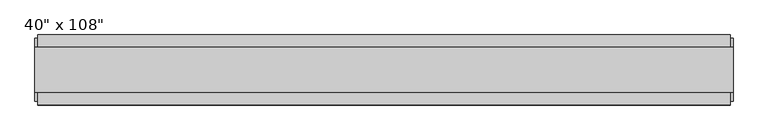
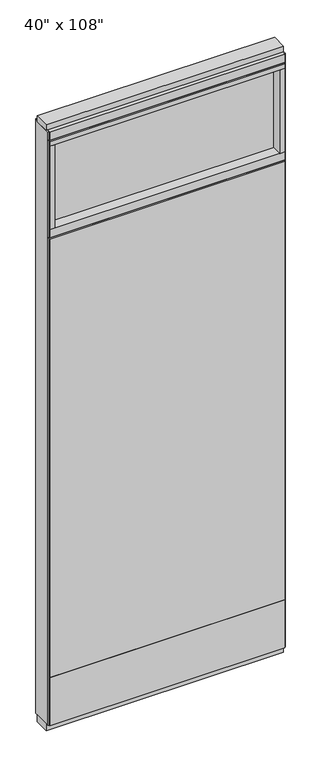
"""IFC4 building model written with IfcOpenShell, lengths in millimetres: furniture geometry."""

from ifc_helpers import new_model, si_unit, frame, origin, origin_with_axes, place, context, project, spatial, polyline, outline, extrude, source, transform, mapped, element, save


def furniture_5e6cb925(model_context):
    return source(origin(), model_context, "Body", "SweptSolid", [
        extrude(outline(polyline([(444.0264771, -46.2822784), (-564.0995229, -46.2822784), (-564.0995229, -33.5822784), (444.0264771, -33.5822784), (444.0264771, -46.2822784)])), frame((0.0, 0.0, 249.936), z_axis=(0.0, 0.0, 1.0), x_axis=(1.0, 0.0, 0.0)), (0.0, 0.0, 1.0), 1985.264),
        extrude(outline(polyline([(444.0264771, 55.3177216), (444.0264771, 42.6177216), (-564.0995229, 42.6177216), (-564.0995229, 55.3177216), (444.0264771, 55.3177216)])), frame((0.0, 0.0, 249.936), z_axis=(0.0, 0.0, 1.0), x_axis=(1.0, 0.0, 0.0)), (0.0, 0.0, 1.0), 1985.264),
        extrude(outline(polyline([(444.0264771, -46.2822784), (-564.0995229, -46.2822784), (-564.0995229, -33.5822784), (444.0264771, -33.5822784), (444.0264771, -46.2822784)])), frame((0.0, 0.0, 31.75), z_axis=(0.0, 0.0, 1.0), x_axis=(1.0, 0.0, 0.0)), (0.0, 0.0, 1.0), 218.186),
        extrude(outline(polyline([(444.0264771, 55.3177216), (444.0264771, 42.6177216), (-564.0995229, 42.6177216), (-564.0995229, 55.3177216), (444.0264771, 55.3177216)])), frame((0.0, 0.0, 31.75), z_axis=(0.0, 0.0, 1.0), x_axis=(1.0, 0.0, 0.0)), (0.0, 0.0, 1.0), 218.186),
        extrude(outline(polyline([(421.8014771, 9.5977216), (421.8014771, -0.5622784), (-541.8745229, -0.5622784), (-541.8745229, 9.5977216), (421.8014771, 9.5977216)])), frame((0.0, 0.0, 2276.475), z_axis=(0.0, 0.0, 1.0), x_axis=(1.0, 0.0, 0.0)), (0.0, 0.0, 1.0), 377.825),
        extrude(outline(polyline([(421.8014771, 55.3177216), (444.0264771, 55.3177216), (444.0264771, -46.2822784), (421.8014771, -46.2822784), (421.8014771, 55.3177216)])), frame((0.0, 0.0, 2276.475), z_axis=(0.0, 0.0, 1.0), x_axis=(1.0, 0.0, 0.0)), (0.0, 0.0, 1.0), 377.825),
        extrude(outline(polyline([(55.3177216, 2240.153), (50.3647216, 2240.153), (50.3647216, 2235.2), (-41.3292784, 2235.2), (-41.3292784, 2240.153), (-46.2822784, 2240.153), (-46.2822784, 2276.475), (55.3177216, 2276.475), (55.3177216, 2240.153)])), frame((-564.0995229, 0.0, 0.0), z_axis=(1.0, 0.0, 0.0), x_axis=(0.0, 1.0, 0.0)), (0.0, 0.0, 1.0), 1008.126),
        extrude(outline(polyline([(-541.8745229, 55.3177216), (-541.8745229, -46.2822784), (-564.0995229, -46.2822784), (-564.0995229, 55.3177216), (-541.8745229, 55.3177216)])), frame((0.0, 0.0, 2276.475), z_axis=(0.0, 0.0, 1.0), x_axis=(1.0, 0.0, 0.0)), (0.0, 0.0, 1.0), 377.825),
        extrude(outline(polyline([(447.9634771, -27.9942784), (-568.0365229, -27.9942784), (-568.0365229, 37.0297216), (447.9634771, 37.0297216), (447.9634771, -27.9942784)])), origin_with_axes(), (0.0, 0.0, 1.0), 31.75),
        extrude(outline(polyline([(-568.0365229, 37.0297216), (447.9634771, 37.0297216), (447.9634771, -27.9942784), (-568.0365229, -27.9942784), (-568.0365229, 37.0297216)])), frame((0.0, 0.0, 2717.8), z_axis=(0.0, 0.0, 1.0), x_axis=(1.0, 0.0, 0.0)), (0.0, 0.0, 1.0), 25.4),
        extrude(outline(polyline([(55.3177216, 2681.478), (50.3647216, 2681.478), (50.3647216, 2676.525), (-41.3292784, 2676.525), (-41.3292784, 2681.478), (-46.2822784, 2681.478), (-46.2822784, 2717.8), (55.3177216, 2717.8), (55.3177216, 2681.478)])), frame((-564.0995229, 0.0, 0.0), z_axis=(1.0, 0.0, 0.0), x_axis=(0.0, 1.0, 0.0)), (0.0, 0.0, 1.0), 1008.126),
        extrude(outline(polyline([(444.0264771, -46.2822784), (-564.0995229, -46.2822784), (-564.0995229, 55.3177216), (444.0264771, 55.3177216), (444.0264771, -46.2822784)])), frame((0.0, 0.0, 2654.3), z_axis=(0.0, 0.0, 1.0), x_axis=(1.0, 0.0, 0.0)), (0.0, 0.0, 1.0), 22.225),
        extrude(outline(polyline([(447.9634771, 50.3647216), (447.9634771, -41.3292784), (444.0264771, -41.3292784), (444.0264771, 50.3647216), (447.9634771, 50.3647216)])), frame((0.0, 0.0, 31.75), z_axis=(0.0, 0.0, 1.0), x_axis=(1.0, 0.0, 0.0)), (0.0, 0.0, 1.0), 2686.05),
        extrude(outline(polyline([(-568.0365229, 50.3647216), (-564.0995229, 50.3647216), (-564.0995229, -41.3292784), (-568.0365229, -41.3292784), (-568.0365229, 50.3647216)])), frame((0.0, 0.0, 31.75), z_axis=(0.0, 0.0, 1.0), x_axis=(1.0, 0.0, 0.0)), (0.0, 0.0, 1.0), 2686.05),
    ])


if __name__ == "__main__":
    model = new_model("IFC4")
    model_context = context("Model", 3, world=origin())
    ifc_project = project(units=[si_unit("LENGTHUNIT", "METRE", prefix="MILLI")], contexts=[model_context])
    site = spatial("IfcSite", under=ifc_project)
    building = spatial("IfcBuilding", under=site)
    placement = place(None, origin())
    furniture_shape = furniture_5e6cb925(model_context)
    element("IfcFurniture", 1, ObjectType="Haworth_Enclose_Wall_SolidTransom : 40\" x 108\"", at=placement, inside=building, context=model_context, shape_type="MappedRepresentation", body=[
        mapped(furniture_shape, transform((0.0, 0.0, 0.0), x_axis=(1.0, 0.0, 0.0), y_axis=(0.0, 1.0, 0.0), z_axis=(0.0, 0.0, 1.0))),
    ])
    save(model, "model.ifc")
